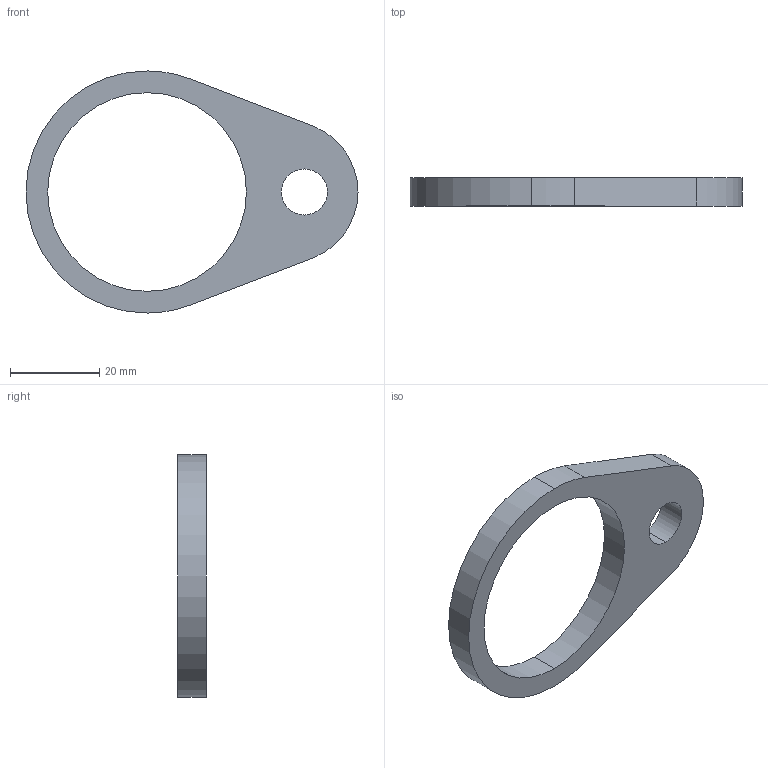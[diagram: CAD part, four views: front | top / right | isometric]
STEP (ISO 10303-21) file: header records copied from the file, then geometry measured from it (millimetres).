
FILE_DESCRIPTION (( 'STEP AP214' ), '1' );
FILE_NAME ('GasSpringClamp-A-44.5.stp', '2011-04-26T18:56:36', ( '' ), ( '' ), 'SwSTEP 2.0', 'SolidWorks 2010', '' );
FILE_SCHEMA (( 'AUTOMOTIVE_DESIGN' ));
Length unit declared in the file: inch
Products named in the file (1): GasSpringClamp-A-44.5
Bounding box: 74.35 x 6.35 x 54.23 mm (x, y, z)
Volume: 8558 mm3; surface area: 5070.7 mm2
Topology: 1 solids, 1 shells, 12 faces, 30 edges, 20 vertices
Faces by surface type: cylinder 8, plane 4
Entity records: 418 total; most frequent: DIRECTION 72, CARTESIAN_POINT 63, ORIENTED_EDGE 60, EDGE_CURVE 30, AXIS2_PLACEMENT_3D 29, VERTEX_POINT 20, EDGE_LOOP 16, CIRCLE 16
